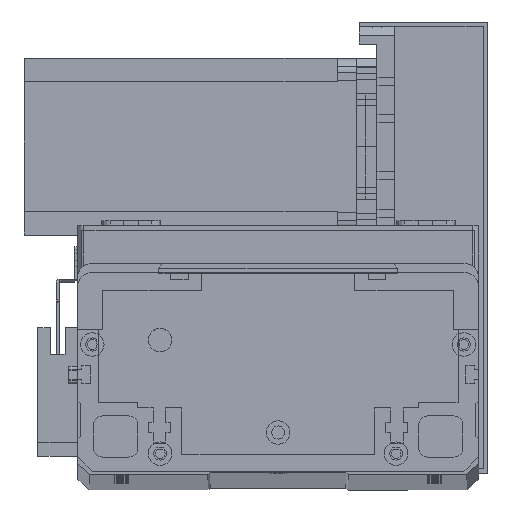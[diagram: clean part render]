
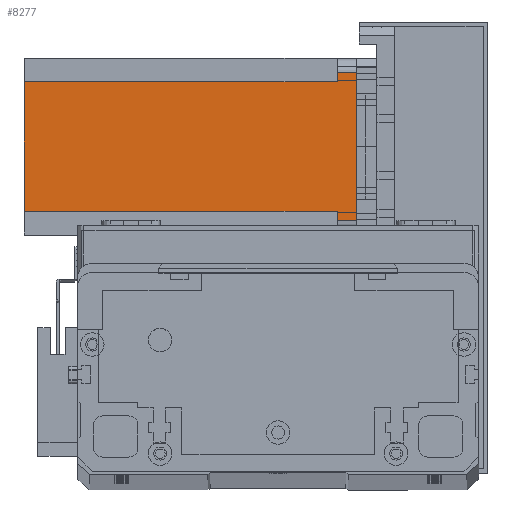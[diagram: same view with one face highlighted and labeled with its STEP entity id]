
A CAD part, top view. The second image highlights one B-rep face of the part: STEP entity #8277.
In plain terms, the highlighted planar face has unit normal (0, 0, 1) as drawn and (0, 1, 0) by its records, which use the part's own axes.
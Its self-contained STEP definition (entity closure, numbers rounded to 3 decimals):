
#184 = EDGE_CURVE ( 'NONE', #19860, #30971, #23039, .T. ) ;
#275 = VERTEX_POINT ( 'NONE', #3759 ) ;
#655 = CARTESIAN_POINT ( 'NONE',  ( 5., 60., -112.5 ) ) ;
#1335 = FACE_OUTER_BOUND ( 'NONE', #11628, .T. ) ;
#3683 = VECTOR ( 'NONE', #23583, 1000. ) ;
#3759 = CARTESIAN_POINT ( 'NONE',  ( 5., 60., -6.5 ) ) ;
#4658 = VERTEX_POINT ( 'NONE', #7060 ) ;
#4907 = CARTESIAN_POINT ( 'NONE',  ( 8., 60., -6.5 ) ) ;
#6075 = CARTESIAN_POINT ( 'NONE',  ( 8., 60., -112.5 ) ) ;
#6858 = CARTESIAN_POINT ( 'NONE',  ( 55., 60., -112.5 ) ) ;
#7060 = CARTESIAN_POINT ( 'NONE',  ( 8., 60., -112.5 ) ) ;
#7164 = DIRECTION ( 'NONE',  ( -1., 0., 0. ) ) ;
#7769 = CARTESIAN_POINT ( 'NONE',  ( 52., 60., -112.5 ) ) ;
#8277 = ADVANCED_FACE ( 'NONE', ( #1335 ), #16131, .T. ) ;
#8663 = EDGE_CURVE ( 'NONE', #9339, #30971, #11049, .T. ) ;
#8703 = DIRECTION ( 'NONE',  ( -1., 0., 0. ) ) ;
#8819 = ORIENTED_EDGE ( 'NONE', *, *, #22323, .F. ) ;
#9131 = CARTESIAN_POINT ( 'NONE',  ( 52., 60., -6.5 ) ) ;
#9137 = DIRECTION ( 'NONE',  ( 1., 0., 0. ) ) ;
#9339 = VERTEX_POINT ( 'NONE', #22719 ) ;
#10195 = LINE ( 'NONE', #12576, #15088 ) ;
#10273 = VECTOR ( 'NONE', #9137, 1000. ) ;
#10275 = VECTOR ( 'NONE', #7164, 1000. ) ;
#11049 = LINE ( 'NONE', #9131, #10273 ) ;
#11628 = EDGE_LOOP ( 'NONE', ( #8819, #29595, #15575, #19369, #28541, #30152, #21657, #28313 ) ) ;
#12060 = VERTEX_POINT ( 'NONE', #7769 ) ;
#12576 = CARTESIAN_POINT ( 'NONE',  ( 0., 60., 0. ) ) ;
#12632 = VECTOR ( 'NONE', #21391, 1000. ) ;
#14031 = VECTOR ( 'NONE', #8703, 1000. ) ;
#14990 = DIRECTION ( 'NONE',  ( -1., 0., 0. ) ) ;
#15088 = VECTOR ( 'NONE', #14990, 1000. ) ;
#15575 = ORIENTED_EDGE ( 'NONE', *, *, #8663, .F. ) ;
#15625 = VECTOR ( 'NONE', #17838, 1000. ) ;
#15845 = DIRECTION ( 'NONE',  ( 0., 0., -1. ) ) ;
#15946 = DIRECTION ( 'NONE',  ( 0., 0., 1. ) ) ;
#15953 = DIRECTION ( 'NONE',  ( 0., 1., 0. ) ) ;
#15986 = CARTESIAN_POINT ( 'NONE',  ( 0., 60., -112.5 ) ) ;
#16120 = EDGE_CURVE ( 'NONE', #12060, #9339, #25324, .T. ) ;
#16131 = PLANE ( 'NONE',  #21300 ) ;
#17838 = DIRECTION ( 'NONE',  ( 0., 0., 1. ) ) ;
#17893 = VERTEX_POINT ( 'NONE', #4907 ) ;
#18588 = CARTESIAN_POINT ( 'NONE',  ( 5., 60., 0. ) ) ;
#19369 = ORIENTED_EDGE ( 'NONE', *, *, #16120, .F. ) ;
#19860 = VERTEX_POINT ( 'NONE', #20785 ) ;
#20785 = CARTESIAN_POINT ( 'NONE',  ( 55., 60., 0. ) ) ;
#20932 = EDGE_CURVE ( 'NONE', #12060, #4658, #29230, .T. ) ;
#21255 = LINE ( 'NONE', #655, #15625 ) ;
#21300 = AXIS2_PLACEMENT_3D ( 'NONE', #15986, #15953, #15946 ) ;
#21391 = DIRECTION ( 'NONE',  ( 0., 0., 1. ) ) ;
#21519 = CARTESIAN_POINT ( 'NONE',  ( 52., 60., -112.5 ) ) ;
#21657 = ORIENTED_EDGE ( 'NONE', *, *, #25669, .T. ) ;
#22323 = EDGE_CURVE ( 'NONE', #19860, #28335, #10195, .T. ) ;
#22719 = CARTESIAN_POINT ( 'NONE',  ( 52., 60., -6.5 ) ) ;
#22856 = VECTOR ( 'NONE', #15845, 1000. ) ;
#23039 = LINE ( 'NONE', #6858, #3683 ) ;
#23046 = CARTESIAN_POINT ( 'NONE',  ( 8., 60., -6.5 ) ) ;
#23583 = DIRECTION ( 'NONE',  ( 0., 0., -1. ) ) ;
#23707 = EDGE_CURVE ( 'NONE', #17893, #4658, #29052, .T. ) ;
#23967 = CARTESIAN_POINT ( 'NONE',  ( 0., 60., -112.5 ) ) ;
#25324 = LINE ( 'NONE', #21519, #12632 ) ;
#25669 = EDGE_CURVE ( 'NONE', #17893, #275, #25943, .T. ) ;
#25943 = LINE ( 'NONE', #23046, #14031 ) ;
#28313 = ORIENTED_EDGE ( 'NONE', *, *, #29939, .T. ) ;
#28335 = VERTEX_POINT ( 'NONE', #18588 ) ;
#28541 = ORIENTED_EDGE ( 'NONE', *, *, #20932, .T. ) ;
#29052 = LINE ( 'NONE', #6075, #22856 ) ;
#29230 = LINE ( 'NONE', #23967, #10275 ) ;
#29595 = ORIENTED_EDGE ( 'NONE', *, *, #184, .T. ) ;
#29939 = EDGE_CURVE ( 'NONE', #275, #28335, #21255, .T. ) ;
#30152 = ORIENTED_EDGE ( 'NONE', *, *, #23707, .F. ) ;
#30971 = VERTEX_POINT ( 'NONE', #31209 ) ;
#31209 = CARTESIAN_POINT ( 'NONE',  ( 55., 60., -6.5 ) ) ;
